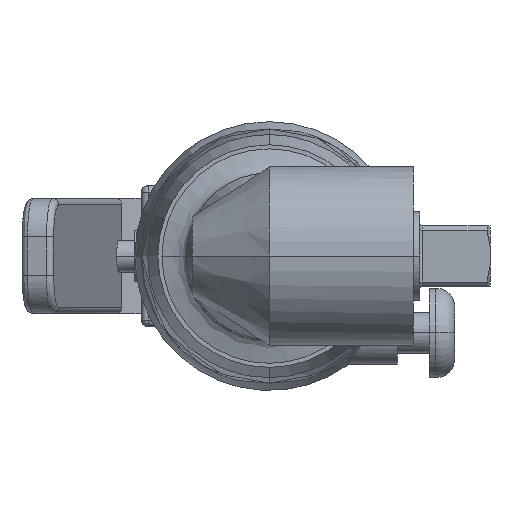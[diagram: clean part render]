
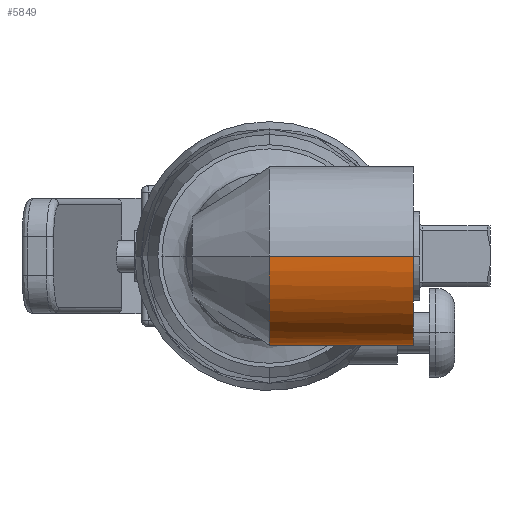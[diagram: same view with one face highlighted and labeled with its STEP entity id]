
A CAD part, left-side view. The second image highlights one B-rep face of the part: STEP entity #5849.
In plain terms, the highlighted cylindrical face has radius 14 mm (diameter 28 mm), a partial arc.
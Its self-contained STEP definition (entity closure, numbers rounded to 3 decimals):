
#1813=CARTESIAN_POINT('',(-267.,-12.5,0.));
#1846=CARTESIAN_POINT('',(-273.261,0.,
-11.667));
#1847=CARTESIAN_POINT('',(-273.261,-0.481,
-11.667));
#1848=CARTESIAN_POINT('',(-273.182,-1.431,
-11.615));
#1849=CARTESIAN_POINT('',(-272.856,-2.819,
-11.391));
#1850=CARTESIAN_POINT('',(-272.363,-4.169,
-11.026));
#1851=CARTESIAN_POINT('',(-271.697,-5.574,
-10.478));
#1852=CARTESIAN_POINT('',(-270.884,-7.007,
-9.704));
#1853=CARTESIAN_POINT('',(-270.047,-8.32,
-8.751));
#1854=CARTESIAN_POINT('',(-269.291,-9.422,
-7.71));
#1855=CARTESIAN_POINT('',(-268.652,-10.314,
-6.635));
#1856=CARTESIAN_POINT('',(-268.131,-11.018,
-5.554));
#1857=CARTESIAN_POINT('',(-267.726,-11.556,
-4.496));
#1858=CARTESIAN_POINT('',(-267.426,-11.949,
-3.477));
#1859=CARTESIAN_POINT('',(-267.216,-12.222,
-2.51));
#1860=CARTESIAN_POINT('',(-267.083,-12.393,
-1.606));
#1861=CARTESIAN_POINT('',(-267.013,-12.483,
-0.768));
#1862=CARTESIAN_POINT('',(-267.,-12.5,
-0.249));
#1863=CARTESIAN_POINT('',(-267.,-12.5,0.));
#1916=DIRECTION('',(0.,-1.,0.));
#1917=VECTOR('',#1916,10.);
#1918=CARTESIAN_POINT('',(-267.,-12.5,0.));
#1919=LINE('',#1918,#1917);
#1920=CARTESIAN_POINT('',(-281.,0.,0.));
#1921=DIRECTION('',(0.,-1.,0.));
#1922=DIRECTION('',(-1.,0.,0.));
#1923=AXIS2_PLACEMENT_3D('',#1920,#1921,#1922);
#1925=DIRECTION('',(0.,-1.,0.));
#1926=VECTOR('',#1925,22.5);
#1927=CARTESIAN_POINT('',(-295.,0.,0.));
#1928=LINE('',#1927,#1926);
#1934=CARTESIAN_POINT('',(-281.,-22.5,0.));
#1935=DIRECTION('',(0.,-1.,0.));
#1936=DIRECTION('',(-1.,0.,0.));
#1937=AXIS2_PLACEMENT_3D('',#1934,#1935,#1936);
#2564=CARTESIAN_POINT('',(-295.,0.,0.));
#2566=VERTEX_POINT('',#2564);
#2567=CARTESIAN_POINT('',(-295.,-22.5,0.));
#2568=VERTEX_POINT('',#2567);
#2571=CARTESIAN_POINT('',(-267.,-22.5,0.));
#2572=VERTEX_POINT('',#2571);
#2576=VERTEX_POINT('',#1813);
#2578=CARTESIAN_POINT('',(-273.261,0.,-11.666));
#2579=VERTEX_POINT('',#2578);
#5834=CARTESIAN_POINT('',(-281.,-24.225,0.));
#5835=DIRECTION('',(0.,1.,0.));
#5836=DIRECTION('',(1.,0.,0.));
#5837=AXIS2_PLACEMENT_3D('',#5834,#5835,#5836);
#5838=CYLINDRICAL_SURFACE('',#5837,14.);
#5840=ORIENTED_EDGE('',*,*,#5839,.F.);
#5841=ORIENTED_EDGE('',*,*,#5807,.F.);
#5842=ORIENTED_EDGE('',*,*,#5820,.F.);
#5844=ORIENTED_EDGE('',*,*,#5843,.T.);
#5846=ORIENTED_EDGE('',*,*,#5845,.T.);
#5847=EDGE_LOOP('',(#5840,#5841,#5842,#5844,#5846));
#5848=FACE_OUTER_BOUND('',#5847,.F.);
#5849=ADVANCED_FACE('',(#5848),#5838,.T.);
#1864=B_SPLINE_CURVE_WITH_KNOTS('',3,(#1846,#1847,#1848,#1849,#1850,#1851,#1852,
#1853,#1854,#1855,#1856,#1857,#1858,#1859,#1860,#1861,#1862,#1863),
.UNSPECIFIED.,.F.,.F.,(4,1,1,1,1,1,1,1,1,1,1,1,1,1,1,4),(0.,0.067,
0.133,0.2,0.267,0.333,0.4,
0.467,0.533,0.6,0.667,0.733,
0.8,0.867,0.933,1.),.UNSPECIFIED.);
#1924=CIRCLE('',#1923,14.);
#1938=CIRCLE('',#1937,14.);
#5807=EDGE_CURVE('',#2579,#2576,#1864,.T.);
#5820=EDGE_CURVE('',#2566,#2579,#1924,.T.);
#5839=EDGE_CURVE('',#2576,#2572,#1919,.T.);
#5843=EDGE_CURVE('',#2566,#2568,#1928,.T.);
#5845=EDGE_CURVE('',#2568,#2572,#1938,.T.);
